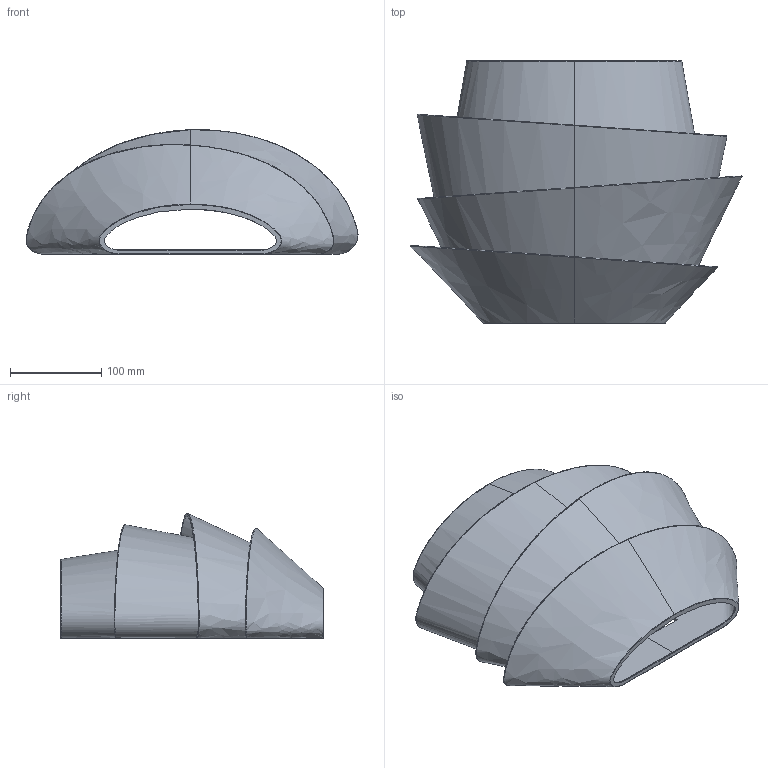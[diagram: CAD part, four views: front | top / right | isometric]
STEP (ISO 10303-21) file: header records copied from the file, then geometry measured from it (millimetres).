
FILE_DESCRIPTION (( 'STEP AP214' ), '1' );
FILE_NAME ('181_STD_W_PL_3D.STEP', '2021-04-29T10:39:55', ( '' ), ( '' ), 'SwSTEP 2.0', 'SolidWorks 2021', '' );
FILE_SCHEMA (( 'AUTOMOTIVE_DESIGN' ));
Length unit declared in the file: millimetre
Products named in the file (1): 181_STD_W_PL_3D
Bounding box: 364.15 x 287.83 x 136.78 mm (x, y, z)
Volume: 623597.6 mm3; surface area: 407788.7 mm2
Topology: 4 solids, 4 shells, 226 faces, 682 edges, 464 vertices
Faces by surface type: bspline 122, plane 72, cylinder 32
Entity records: 37047 total; most frequent: CARTESIAN_POINT 29717, ORIENTED_EDGE 1364, EDGE_CURVE 682, B_SPLINE_CURVE_WITH_KNOTS 492, VERTEX_POINT 464, DIRECTION 449, EDGE_LOOP 234, UNCERTAINTY_MEASURE_WITH_UNIT 232
